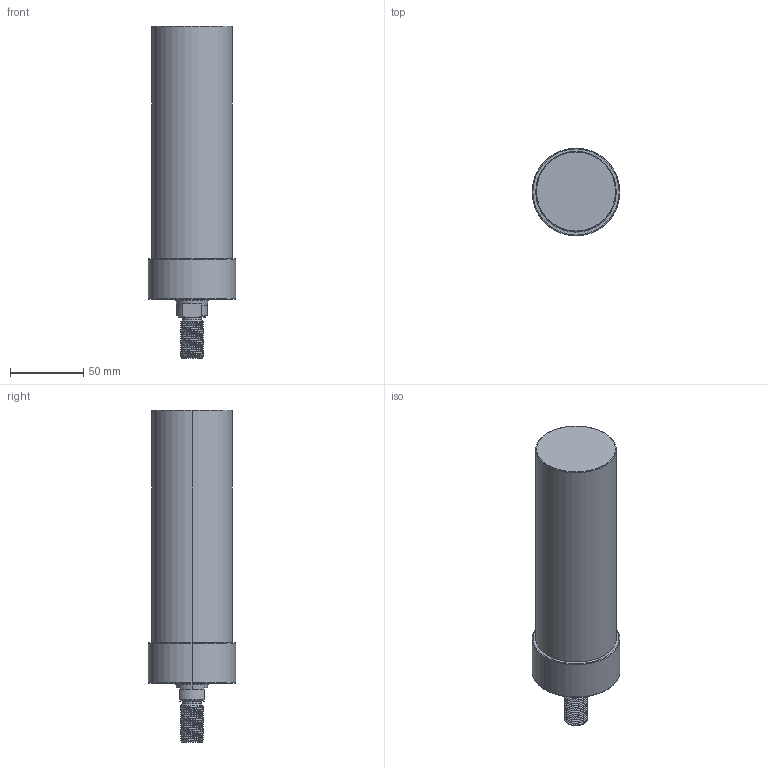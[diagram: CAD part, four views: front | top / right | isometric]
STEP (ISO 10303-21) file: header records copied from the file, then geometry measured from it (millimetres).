
FILE_DESCRIPTION (( 'STEP AP203' ), '1' );
FILE_NAME ('CLLU-055GT-130.STEP', '2020-01-16T01:58:30', ( '' ), ( '' ), 'SwSTEP 2.0', 'SolidWorks 2015', '' );
FILE_SCHEMA (( 'CONFIG_CONTROL_DESIGN' ));
Length unit declared in the file: millimetre
Products named in the file (1): CLLU-055GT-130
Bounding box: 60 x 60 x 227 mm (x, y, z)
Volume: 464169.2 mm3; surface area: 42472 mm2
Topology: 1 solids, 1 shells, 102 faces, 254 edges, 155 vertices
Faces by surface type: cylinder 56, cone 26, plane 12, torus 6, bspline 2
Entity records: 4910 total; most frequent: CARTESIAN_POINT 2619, ORIENTED_EDGE 492, DIRECTION 445, EDGE_CURVE 246, AXIS2_PLACEMENT_3D 178, VERTEX_POINT 155, EDGE_LOOP 111, ADVANCED_FACE 102
